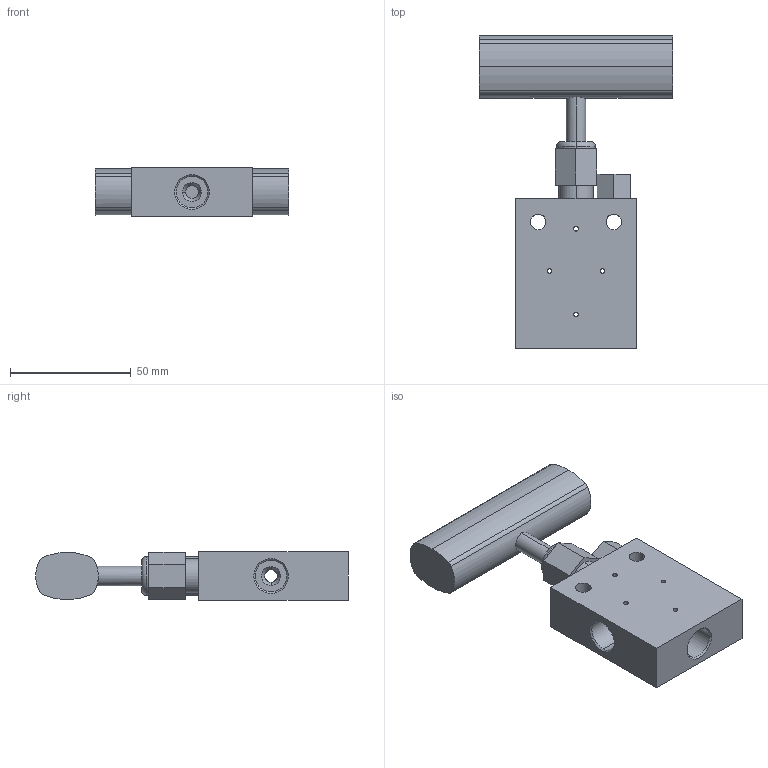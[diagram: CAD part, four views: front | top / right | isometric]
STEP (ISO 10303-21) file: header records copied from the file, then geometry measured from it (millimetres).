
FILE_DESCRIPTION (( 'STEP AP203' ), '1' );
FILE_NAME ('NV20VS06-O-00-00.STEP', '2023-02-23T07:55:43', ( 'USER' ), ( '' ), 'SwSTEP 2.0', 'SolidWorks 2020', '' );
FILE_SCHEMA (( 'CONFIG_CONTROL_DESIGN' ));
Length unit declared in the file: millimetre
Products named in the file (1): NV20VS06-O-00-00
Bounding box: 80 x 129.45 x 20 mm (x, y, z)
Volume: 93952 mm3; surface area: 23867.8 mm2
Topology: 1 solids, 1 shells, 107 faces, 263 edges, 164 vertices
Faces by surface type: cylinder 55, plane 30, cone 20, torus 2
Entity records: 3736 total; most frequent: CARTESIAN_POINT 1045, DIRECTION 561, ORIENTED_EDGE 526, EDGE_CURVE 263, AXIS2_PLACEMENT_3D 216, VERTEX_POINT 164, EDGE_LOOP 137, LINE 129
